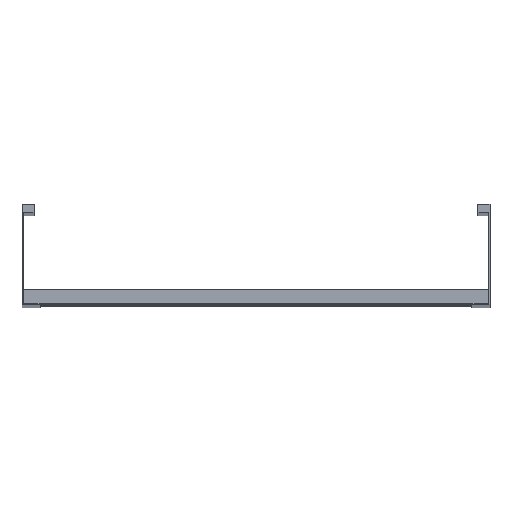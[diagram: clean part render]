
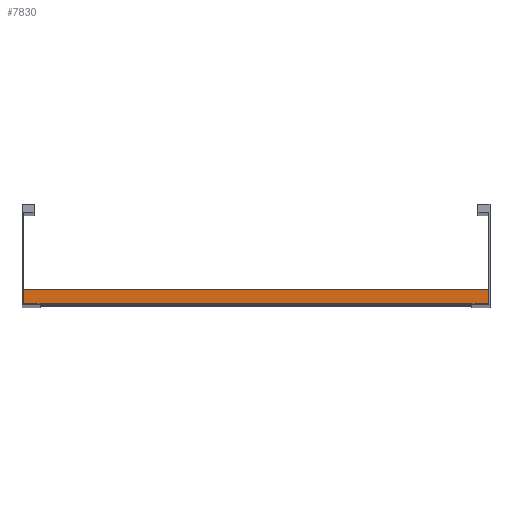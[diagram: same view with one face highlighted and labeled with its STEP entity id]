
A CAD part, top view. The second image highlights one B-rep face of the part: STEP entity #7830.
In plain terms, the highlighted planar face has unit normal (0, 0, 1).
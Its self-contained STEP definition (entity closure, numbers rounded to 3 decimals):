
#791 = DIRECTION ( 'NONE',  ( 0., 1., 0. ) ) ;
#895 = DIRECTION ( 'NONE',  ( -1., 0., 0. ) ) ;
#1312 = CARTESIAN_POINT ( 'NONE',  ( 348., 20., 20.25 ) ) ;
#1420 = LINE ( 'NONE', #1312, #11376 ) ;
#1454 = VERTEX_POINT ( 'NONE', #4468 ) ;
#1858 = VERTEX_POINT ( 'NONE', #9837 ) ;
#2063 = CARTESIAN_POINT ( 'NONE',  ( -348., 0., 20.25 ) ) ;
#2537 = DIRECTION ( 'NONE',  ( 0., 0., -1. ) ) ;
#4162 = DIRECTION ( 'NONE',  ( 0., -1., 0. ) ) ;
#4263 = LINE ( 'NONE', #7805, #6825 ) ;
#4468 = CARTESIAN_POINT ( 'NONE',  ( 348., 0., 20.25 ) ) ;
#4535 = VERTEX_POINT ( 'NONE', #9707 ) ;
#4965 = EDGE_LOOP ( 'NONE', ( #9202, #5752, #9727, #9852 ) ) ;
#5015 = CARTESIAN_POINT ( 'NONE',  ( 348., 0., 20.25 ) ) ;
#5202 = EDGE_CURVE ( 'NONE', #4535, #1858, #4263, .T. ) ;
#5752 = ORIENTED_EDGE ( 'NONE', *, *, #11389, .F. ) ;
#5886 = DIRECTION ( 'NONE',  ( -1., 0., 0. ) ) ;
#6114 = LINE ( 'NONE', #5015, #7376 ) ;
#6134 = FACE_OUTER_BOUND ( 'NONE', #4965, .T. ) ;
#6190 = PLANE ( 'NONE',  #8596 ) ;
#6239 = VERTEX_POINT ( 'NONE', #2063 ) ;
#6471 = EDGE_CURVE ( 'NONE', #4535, #1454, #1420, .T. ) ;
#6825 = VECTOR ( 'NONE', #895, 1000. ) ;
#6848 = CARTESIAN_POINT ( 'NONE',  ( -348., 20., 20.25 ) ) ;
#7376 = VECTOR ( 'NONE', #5886, 1000. ) ;
#7805 = CARTESIAN_POINT ( 'NONE',  ( 348., 20., 20.25 ) ) ;
#7830 = ADVANCED_FACE ( 'NONE', ( #6134 ), #6190, .F. ) ;
#8477 = DIRECTION ( 'NONE',  ( 0., -1., 0. ) ) ;
#8543 = EDGE_CURVE ( 'NONE', #1858, #6239, #11161, .T. ) ;
#8596 = AXIS2_PLACEMENT_3D ( 'NONE', #8693, #2537, #791 ) ;
#8693 = CARTESIAN_POINT ( 'NONE',  ( 348., 20., 20.25 ) ) ;
#9202 = ORIENTED_EDGE ( 'NONE', *, *, #8543, .T. ) ;
#9707 = CARTESIAN_POINT ( 'NONE',  ( 348., 20., 20.25 ) ) ;
#9727 = ORIENTED_EDGE ( 'NONE', *, *, #6471, .F. ) ;
#9837 = CARTESIAN_POINT ( 'NONE',  ( -348., 20., 20.25 ) ) ;
#9852 = ORIENTED_EDGE ( 'NONE', *, *, #5202, .T. ) ;
#10850 = VECTOR ( 'NONE', #8477, 1000. ) ;
#11161 = LINE ( 'NONE', #6848, #10850 ) ;
#11376 = VECTOR ( 'NONE', #4162, 1000. ) ;
#11389 = EDGE_CURVE ( 'NONE', #1454, #6239, #6114, .T. ) ;
